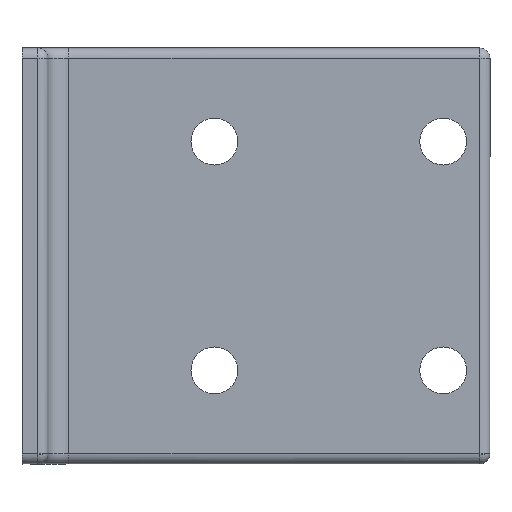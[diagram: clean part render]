
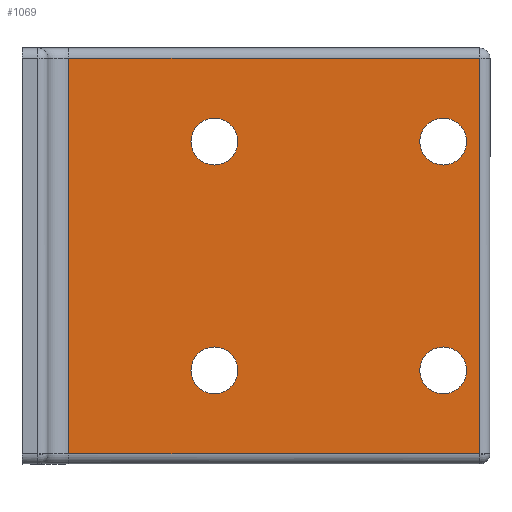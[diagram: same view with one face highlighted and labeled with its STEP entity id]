
A CAD part, front view. The second image highlights one B-rep face of the part: STEP entity #1069.
In plain terms, the highlighted planar face has unit normal (0, -1, 0).
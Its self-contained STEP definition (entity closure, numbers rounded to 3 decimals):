
#2 = VERTEX_POINT ( 'NONE', #1234 ) ;
#4 = DIRECTION ( 'NONE',  ( 0., 1., 0. ) ) ;
#14 = EDGE_LOOP ( 'NONE', ( #557, #1219 ) ) ;
#30 = CARTESIAN_POINT ( 'NONE',  ( 37., -5., -18. ) ) ;
#41 = PLANE ( 'NONE',  #341 ) ;
#58 = ORIENTED_EDGE ( 'NONE', *, *, #1099, .T. ) ;
#60 = DIRECTION ( 'NONE',  ( 0., 1., 0. ) ) ;
#68 = CARTESIAN_POINT ( 'NONE',  ( 88., -5., -78. ) ) ;
#70 = VERTEX_POINT ( 'NONE', #1323 ) ;
#107 = VERTEX_POINT ( 'NONE', #1339 ) ;
#116 = FACE_OUTER_BOUND ( 'NONE', #627, .T. ) ;
#131 = AXIS2_PLACEMENT_3D ( 'NONE', #604, #617, #1327 ) ;
#132 = CIRCLE ( 'NONE', #1060, 4.5 ) ;
#139 = EDGE_CURVE ( 'NONE', #223, #2, #581, .T. ) ;
#142 = CIRCLE ( 'NONE', #1254, 4.5 ) ;
#146 = LINE ( 'NONE', #208, #619 ) ;
#148 = DIRECTION ( 'NONE',  ( 0., 0., -1. ) ) ;
#177 = CARTESIAN_POINT ( 'NONE',  ( 37., -5., -62. ) ) ;
#208 = CARTESIAN_POINT ( 'NONE',  ( 9., -5., 0. ) ) ;
#223 = VERTEX_POINT ( 'NONE', #1349 ) ;
#229 = AXIS2_PLACEMENT_3D ( 'NONE', #800, #895, #507 ) ;
#231 = CARTESIAN_POINT ( 'NONE',  ( 9., -5., -78. ) ) ;
#263 = EDGE_CURVE ( 'NONE', #70, #734, #142, .T. ) ;
#275 = DIRECTION ( 'NONE',  ( 0., 0., -1. ) ) ;
#281 = CARTESIAN_POINT ( 'NONE',  ( 37., -5., -22.5 ) ) ;
#305 = DIRECTION ( 'NONE',  ( 0., 0., -1. ) ) ;
#340 = ORIENTED_EDGE ( 'NONE', *, *, #363, .T. ) ;
#341 = AXIS2_PLACEMENT_3D ( 'NONE', #878, #587, #148 ) ;
#346 = EDGE_CURVE ( 'NONE', #608, #689, #1196, .T. ) ;
#351 = AXIS2_PLACEMENT_3D ( 'NONE', #177, #60, #899 ) ;
#358 = EDGE_CURVE ( 'NONE', #2, #223, #756, .T. ) ;
#363 = EDGE_CURVE ( 'NONE', #777, #463, #1000, .T. ) ;
#381 = EDGE_LOOP ( 'NONE', ( #1193, #812 ) ) ;
#398 = AXIS2_PLACEMENT_3D ( 'NONE', #1044, #4, #426 ) ;
#426 = DIRECTION ( 'NONE',  ( 0., 0., -1. ) ) ;
#428 = EDGE_CURVE ( 'NONE', #107, #654, #480, .T. ) ;
#430 = ORIENTED_EDGE ( 'NONE', *, *, #510, .T. ) ;
#432 = CIRCLE ( 'NONE', #229, 4.5 ) ;
#444 = DIRECTION ( 'NONE',  ( 0., 1., 0. ) ) ;
#455 = EDGE_CURVE ( 'NONE', #484, #1222, #1233, .T. ) ;
#463 = VERTEX_POINT ( 'NONE', #68 ) ;
#480 = CIRCLE ( 'NONE', #351, 4.5 ) ;
#482 = DIRECTION ( 'NONE',  ( 0., 0., -1. ) ) ;
#484 = VERTEX_POINT ( 'NONE', #491 ) ;
#491 = CARTESIAN_POINT ( 'NONE',  ( 81., -5., -66.5 ) ) ;
#492 = CARTESIAN_POINT ( 'NONE',  ( 37., -5., -57.5 ) ) ;
#507 = DIRECTION ( 'NONE',  ( 0., 0., -1. ) ) ;
#510 = EDGE_CURVE ( 'NONE', #654, #107, #432, .T. ) ;
#556 = DIRECTION ( 'NONE',  ( -1., 0., 0. ) ) ;
#557 = ORIENTED_EDGE ( 'NONE', *, *, #697, .T. ) ;
#581 = CIRCLE ( 'NONE', #398, 4.5 ) ;
#586 = AXIS2_PLACEMENT_3D ( 'NONE', #1274, #664, #482 ) ;
#587 = DIRECTION ( 'NONE',  ( 0., -1., 0. ) ) ;
#588 = EDGE_LOOP ( 'NONE', ( #1246, #430 ) ) ;
#600 = ORIENTED_EDGE ( 'NONE', *, *, #346, .T. ) ;
#604 = CARTESIAN_POINT ( 'NONE',  ( 81., -5., -62. ) ) ;
#608 = VERTEX_POINT ( 'NONE', #634 ) ;
#617 = DIRECTION ( 'NONE',  ( 0., 1., 0. ) ) ;
#619 = VECTOR ( 'NONE', #305, 1000. ) ;
#627 = EDGE_LOOP ( 'NONE', ( #58, #600, #1172, #340 ) ) ;
#630 = VECTOR ( 'NONE', #556, 1000. ) ;
#634 = CARTESIAN_POINT ( 'NONE',  ( 88., -5., -2. ) ) ;
#654 = VERTEX_POINT ( 'NONE', #492 ) ;
#664 = DIRECTION ( 'NONE',  ( 0., 1., 0. ) ) ;
#665 = DIRECTION ( 'NONE',  ( 0., 0., -1. ) ) ;
#671 = CARTESIAN_POINT ( 'NONE',  ( 9., -5., -2. ) ) ;
#679 = FACE_BOUND ( 'NONE', #381, .T. ) ;
#689 = VERTEX_POINT ( 'NONE', #872 ) ;
#697 = EDGE_CURVE ( 'NONE', #734, #70, #132, .T. ) ;
#714 = EDGE_LOOP ( 'NONE', ( #977, #1194 ) ) ;
#734 = VERTEX_POINT ( 'NONE', #281 ) ;
#750 = DIRECTION ( 'NONE',  ( 0., 0., -1. ) ) ;
#756 = CIRCLE ( 'NONE', #586, 4.5 ) ;
#758 = EDGE_CURVE ( 'NONE', #689, #777, #146, .T. ) ;
#777 = VERTEX_POINT ( 'NONE', #817 ) ;
#789 = CARTESIAN_POINT ( 'NONE',  ( 81., -5., -57.5 ) ) ;
#800 = CARTESIAN_POINT ( 'NONE',  ( 37., -5., -62. ) ) ;
#812 = ORIENTED_EDGE ( 'NONE', *, *, #139, .T. ) ;
#817 = CARTESIAN_POINT ( 'NONE',  ( 9., -5., -78. ) ) ;
#839 = CARTESIAN_POINT ( 'NONE',  ( 81., -5., -62. ) ) ;
#848 = FACE_BOUND ( 'NONE', #588, .T. ) ;
#872 = CARTESIAN_POINT ( 'NONE',  ( 9., -5., -2. ) ) ;
#878 = CARTESIAN_POINT ( 'NONE',  ( 9., -5., 0. ) ) ;
#893 = DIRECTION ( 'NONE',  ( 0., 1., 0. ) ) ;
#895 = DIRECTION ( 'NONE',  ( 0., 1., 0. ) ) ;
#899 = DIRECTION ( 'NONE',  ( 0., 0., -1. ) ) ;
#933 = DIRECTION ( 'NONE',  ( 0., 1., 0. ) ) ;
#977 = ORIENTED_EDGE ( 'NONE', *, *, #455, .T. ) ;
#1000 = LINE ( 'NONE', #231, #1026 ) ;
#1026 = VECTOR ( 'NONE', #1283, 1000. ) ;
#1044 = CARTESIAN_POINT ( 'NONE',  ( 81., -5., -18. ) ) ;
#1060 = AXIS2_PLACEMENT_3D ( 'NONE', #1206, #893, #275 ) ;
#1069 = ADVANCED_FACE ( 'NONE', ( #1122, #848, #679, #1155, #116 ), #41, .T. ) ;
#1099 = EDGE_CURVE ( 'NONE', #463, #608, #1257, .T. ) ;
#1122 = FACE_BOUND ( 'NONE', #714, .T. ) ;
#1155 = FACE_BOUND ( 'NONE', #14, .T. ) ;
#1165 = AXIS2_PLACEMENT_3D ( 'NONE', #839, #933, #750 ) ;
#1172 = ORIENTED_EDGE ( 'NONE', *, *, #758, .T. ) ;
#1193 = ORIENTED_EDGE ( 'NONE', *, *, #358, .T. ) ;
#1194 = ORIENTED_EDGE ( 'NONE', *, *, #1350, .T. ) ;
#1196 = LINE ( 'NONE', #671, #630 ) ;
#1199 = DIRECTION ( 'NONE',  ( 0., 0., 1. ) ) ;
#1206 = CARTESIAN_POINT ( 'NONE',  ( 37., -5., -18. ) ) ;
#1219 = ORIENTED_EDGE ( 'NONE', *, *, #263, .T. ) ;
#1222 = VERTEX_POINT ( 'NONE', #789 ) ;
#1233 = CIRCLE ( 'NONE', #131, 4.5 ) ;
#1234 = CARTESIAN_POINT ( 'NONE',  ( 81., -5., -22.5 ) ) ;
#1246 = ORIENTED_EDGE ( 'NONE', *, *, #428, .T. ) ;
#1254 = AXIS2_PLACEMENT_3D ( 'NONE', #30, #444, #665 ) ;
#1257 = LINE ( 'NONE', #1321, #1357 ) ;
#1274 = CARTESIAN_POINT ( 'NONE',  ( 81., -5., -18. ) ) ;
#1283 = DIRECTION ( 'NONE',  ( 1., 0., 0. ) ) ;
#1309 = CIRCLE ( 'NONE', #1165, 4.5 ) ;
#1321 = CARTESIAN_POINT ( 'NONE',  ( 88., -5., 0. ) ) ;
#1323 = CARTESIAN_POINT ( 'NONE',  ( 37., -5., -13.5 ) ) ;
#1327 = DIRECTION ( 'NONE',  ( 0., 0., -1. ) ) ;
#1339 = CARTESIAN_POINT ( 'NONE',  ( 37., -5., -66.5 ) ) ;
#1349 = CARTESIAN_POINT ( 'NONE',  ( 81., -5., -13.5 ) ) ;
#1350 = EDGE_CURVE ( 'NONE', #1222, #484, #1309, .T. ) ;
#1357 = VECTOR ( 'NONE', #1199, 1000. ) ;
